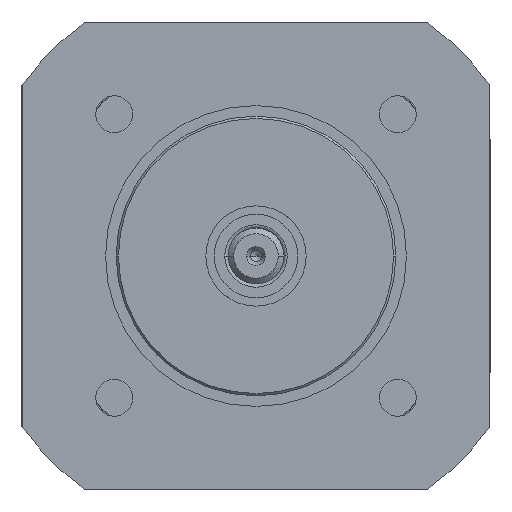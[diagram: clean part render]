
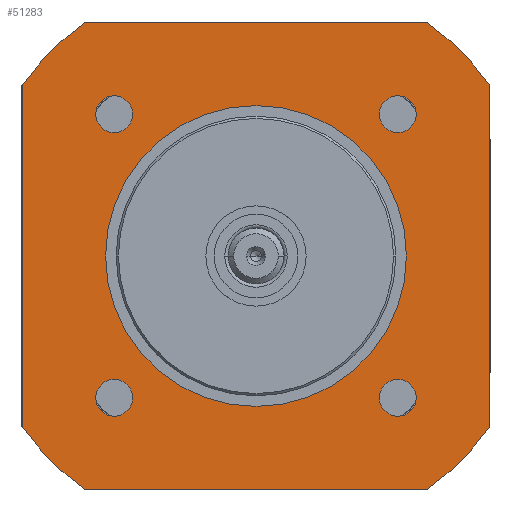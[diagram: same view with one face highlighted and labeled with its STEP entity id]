
A CAD part, left-side view. The second image highlights one B-rep face of the part: STEP entity #51283.
In plain terms, the highlighted planar face has unit normal (-1, 0, 0).
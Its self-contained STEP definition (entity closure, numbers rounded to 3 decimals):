
#1986=CARTESIAN_POINT('',(-10.5,0.,0.));
#1987=DIRECTION('',(-1.,0.,0.));
#1988=DIRECTION('',(0.,-0.59,-0.808));
#1989=AXIS2_PLACEMENT_3D('',#1986,#1987,#1988);
#1991=DIRECTION('',(0.,-1.,0.));
#1992=VECTOR('',#1991,30.659);
#1993=CARTESIAN_POINT('',(-10.5,15.33,-21.));
#1994=LINE('',#1993,#1992);
#1995=CARTESIAN_POINT('',(-10.5,0.,0.));
#1996=DIRECTION('',(-1.,0.,0.));
#1997=DIRECTION('',(0.,0.808,-0.59));
#1998=AXIS2_PLACEMENT_3D('',#1995,#1996,#1997);
#2000=DIRECTION('',(0.,0.,-1.));
#2001=VECTOR('',#2000,30.659);
#2002=CARTESIAN_POINT('',(-10.5,21.,15.33));
#2003=LINE('',#2002,#2001);
#2004=CARTESIAN_POINT('',(-10.5,0.,0.));
#2005=DIRECTION('',(-1.,0.,0.));
#2006=DIRECTION('',(0.,0.59,0.808));
#2007=AXIS2_PLACEMENT_3D('',#2004,#2005,#2006);
#2009=DIRECTION('',(0.,1.,0.));
#2010=VECTOR('',#2009,30.659);
#2011=CARTESIAN_POINT('',(-10.5,-15.33,21.));
#2012=LINE('',#2011,#2010);
#2013=CARTESIAN_POINT('',(-10.5,0.,0.));
#2014=DIRECTION('',(-1.,0.,0.));
#2015=DIRECTION('',(0.,-0.808,0.59));
#2016=AXIS2_PLACEMENT_3D('',#2013,#2014,#2015);
#2018=DIRECTION('',(0.,0.,1.));
#2019=VECTOR('',#2018,30.659);
#2020=CARTESIAN_POINT('',(-10.5,-21.,-15.33));
#2021=LINE('',#2020,#2019);
#2022=CARTESIAN_POINT('',(-10.5,0.,0.));
#2023=DIRECTION('',(-1.,0.,0.));
#2024=DIRECTION('',(0.,0.,1.));
#2025=AXIS2_PLACEMENT_3D('',#2022,#2023,#2024);
#2027=CARTESIAN_POINT('',(-10.5,0.,0.));
#2028=DIRECTION('',(-1.,0.,0.));
#2029=DIRECTION('',(0.,0.,-1.));
#2030=AXIS2_PLACEMENT_3D('',#2027,#2028,#2029);
#2032=CARTESIAN_POINT('',(-10.5,12.728,-12.728));
#2033=DIRECTION('',(-1.,0.,0.));
#2034=DIRECTION('',(0.,1.,0.));
#2035=AXIS2_PLACEMENT_3D('',#2032,#2033,#2034);
#2037=CARTESIAN_POINT('',(-10.5,12.728,-12.728));
#2038=DIRECTION('',(-1.,0.,0.));
#2039=DIRECTION('',(0.,-1.,0.));
#2040=AXIS2_PLACEMENT_3D('',#2037,#2038,#2039);
#2042=CARTESIAN_POINT('',(-10.5,-12.728,-12.728));
#2043=DIRECTION('',(-1.,0.,0.));
#2044=DIRECTION('',(0.,0.,-1.));
#2045=AXIS2_PLACEMENT_3D('',#2042,#2043,#2044);
#2047=CARTESIAN_POINT('',(-10.5,-12.728,-12.728));
#2048=DIRECTION('',(-1.,0.,0.));
#2049=DIRECTION('',(0.,0.,1.));
#2050=AXIS2_PLACEMENT_3D('',#2047,#2048,#2049);
#2052=CARTESIAN_POINT('',(-10.5,-12.728,12.728));
#2053=DIRECTION('',(-1.,0.,0.));
#2054=DIRECTION('',(0.,-1.,0.));
#2055=AXIS2_PLACEMENT_3D('',#2052,#2053,#2054);
#2057=CARTESIAN_POINT('',(-10.5,-12.728,12.728));
#2058=DIRECTION('',(-1.,0.,0.));
#2059=DIRECTION('',(0.,1.,0.));
#2060=AXIS2_PLACEMENT_3D('',#2057,#2058,#2059);
#2062=CARTESIAN_POINT('',(-10.5,12.728,12.728));
#2063=DIRECTION('',(-1.,0.,0.));
#2064=DIRECTION('',(0.,0.,1.));
#2065=AXIS2_PLACEMENT_3D('',#2062,#2063,#2064);
#2067=CARTESIAN_POINT('',(-10.5,12.728,12.728));
#2068=DIRECTION('',(-1.,0.,0.));
#2069=DIRECTION('',(0.,0.,-1.));
#2070=AXIS2_PLACEMENT_3D('',#2067,#2068,#2069);
#44891=CARTESIAN_POINT('',(-10.5,-21.,-15.33));
#44892=CARTESIAN_POINT('',(-10.5,-21.,15.33));
#44893=VERTEX_POINT('',#44891);
#44894=VERTEX_POINT('',#44892);
#44895=CARTESIAN_POINT('',(-10.5,-15.33,21.));
#44896=CARTESIAN_POINT('',(-10.5,15.33,21.));
#44897=VERTEX_POINT('',#44895);
#44898=VERTEX_POINT('',#44896);
#44899=CARTESIAN_POINT('',(-10.5,21.,15.33));
#44900=CARTESIAN_POINT('',(-10.5,21.,-15.33));
#44901=VERTEX_POINT('',#44899);
#44902=VERTEX_POINT('',#44900);
#44903=CARTESIAN_POINT('',(-10.5,15.33,-21.));
#44904=CARTESIAN_POINT('',(-10.5,-15.33,-21.));
#44905=VERTEX_POINT('',#44903);
#44906=VERTEX_POINT('',#44904);
#44947=CARTESIAN_POINT('',(-10.5,0.,13.5));
#44948=CARTESIAN_POINT('',(-10.5,0.,-13.5));
#44949=VERTEX_POINT('',#44947);
#44950=VERTEX_POINT('',#44948);
#44983=CARTESIAN_POINT('',(-10.5,14.378,-12.728));
#44984=CARTESIAN_POINT('',(-10.5,11.078,-12.728));
#44985=VERTEX_POINT('',#44983);
#44986=VERTEX_POINT('',#44984);
#44987=CARTESIAN_POINT('',(-10.5,-12.728,-14.378));
#44988=CARTESIAN_POINT('',(-10.5,-12.728,-11.078));
#44989=VERTEX_POINT('',#44987);
#44990=VERTEX_POINT('',#44988);
#44991=CARTESIAN_POINT('',(-10.5,-14.378,12.728));
#44992=CARTESIAN_POINT('',(-10.5,-11.078,12.728));
#44993=VERTEX_POINT('',#44991);
#44994=VERTEX_POINT('',#44992);
#44995=CARTESIAN_POINT('',(-10.5,12.728,14.378));
#44996=CARTESIAN_POINT('',(-10.5,12.728,11.078));
#44997=VERTEX_POINT('',#44995);
#44998=VERTEX_POINT('',#44996);
#51235=CARTESIAN_POINT('',(-10.5,0.,0.));
#51236=DIRECTION('',(-1.,0.,0.));
#51237=DIRECTION('',(0.,1.,0.));
#51238=AXIS2_PLACEMENT_3D('',#51235,#51236,#51237);
#51239=PLANE('',#51238);
#51241=ORIENTED_EDGE('',*,*,#51240,.F.);
#51242=ORIENTED_EDGE('',*,*,#51135,.F.);
#51243=ORIENTED_EDGE('',*,*,#51229,.F.);
#51244=ORIENTED_EDGE('',*,*,#50553,.F.);
#51246=ORIENTED_EDGE('',*,*,#51245,.F.);
#51247=ORIENTED_EDGE('',*,*,#50497,.F.);
#51249=ORIENTED_EDGE('',*,*,#51248,.F.);
#51250=ORIENTED_EDGE('',*,*,#50423,.F.);
#51251=EDGE_LOOP('',(#51241,#51242,#51243,#51244,#51246,#51247,#51249,#51250));
#51252=FACE_OUTER_BOUND('',#51251,.F.);
#51254=ORIENTED_EDGE('',*,*,#51253,.T.);
#51256=ORIENTED_EDGE('',*,*,#51255,.T.);
#51257=EDGE_LOOP('',(#51254,#51256));
#51258=FACE_BOUND('',#51257,.F.);
#51260=ORIENTED_EDGE('',*,*,#51259,.T.);
#51262=ORIENTED_EDGE('',*,*,#51261,.T.);
#51263=EDGE_LOOP('',(#51260,#51262));
#51264=FACE_BOUND('',#51263,.F.);
#51266=ORIENTED_EDGE('',*,*,#51265,.T.);
#51268=ORIENTED_EDGE('',*,*,#51267,.T.);
#51269=EDGE_LOOP('',(#51266,#51268));
#51270=FACE_BOUND('',#51269,.F.);
#51272=ORIENTED_EDGE('',*,*,#51271,.T.);
#51274=ORIENTED_EDGE('',*,*,#51273,.T.);
#51275=EDGE_LOOP('',(#51272,#51274));
#51276=FACE_BOUND('',#51275,.F.);
#51278=ORIENTED_EDGE('',*,*,#51277,.T.);
#51280=ORIENTED_EDGE('',*,*,#51279,.T.);
#51281=EDGE_LOOP('',(#51278,#51280));
#51282=FACE_BOUND('',#51281,.F.);
#51283=ADVANCED_FACE('',(#51252,#51258,#51264,#51270,#51276,#51282),#51239,.T.);
#1990=CIRCLE('',#1989,26.);
#1999=CIRCLE('',#1998,26.);
#2008=CIRCLE('',#2007,26.);
#2017=CIRCLE('',#2016,26.);
#2026=CIRCLE('',#2025,13.5);
#2031=CIRCLE('',#2030,13.5);
#2036=CIRCLE('',#2035,1.65);
#2041=CIRCLE('',#2040,1.65);
#2046=CIRCLE('',#2045,1.65);
#2051=CIRCLE('',#2050,1.65);
#2056=CIRCLE('',#2055,1.65);
#2061=CIRCLE('',#2060,1.65);
#2066=CIRCLE('',#2065,1.65);
#2071=CIRCLE('',#2070,1.65);
#50423=EDGE_CURVE('',#44893,#44894,#2021,.T.);
#50497=EDGE_CURVE('',#44897,#44898,#2012,.T.);
#50553=EDGE_CURVE('',#44901,#44902,#2003,.T.);
#51135=EDGE_CURVE('',#44905,#44906,#1994,.T.);
#51229=EDGE_CURVE('',#44902,#44905,#1999,.T.);
#51240=EDGE_CURVE('',#44906,#44893,#1990,.T.);
#51245=EDGE_CURVE('',#44898,#44901,#2008,.T.);
#51248=EDGE_CURVE('',#44894,#44897,#2017,.T.);
#51253=EDGE_CURVE('',#44949,#44950,#2026,.T.);
#51255=EDGE_CURVE('',#44950,#44949,#2031,.T.);
#51259=EDGE_CURVE('',#44985,#44986,#2036,.T.);
#51261=EDGE_CURVE('',#44986,#44985,#2041,.T.);
#51265=EDGE_CURVE('',#44989,#44990,#2046,.T.);
#51267=EDGE_CURVE('',#44990,#44989,#2051,.T.);
#51271=EDGE_CURVE('',#44993,#44994,#2056,.T.);
#51273=EDGE_CURVE('',#44994,#44993,#2061,.T.);
#51277=EDGE_CURVE('',#44997,#44998,#2066,.T.);
#51279=EDGE_CURVE('',#44998,#44997,#2071,.T.);
